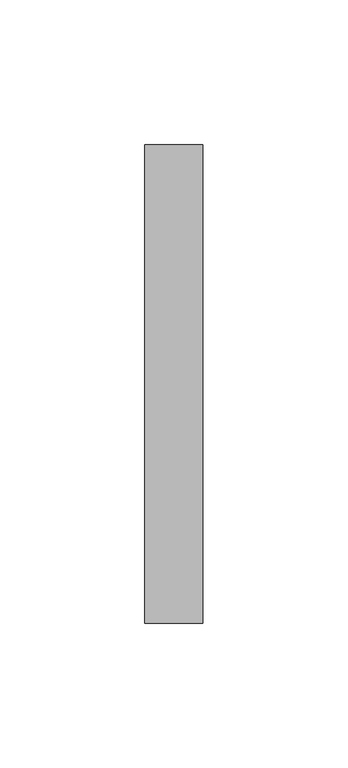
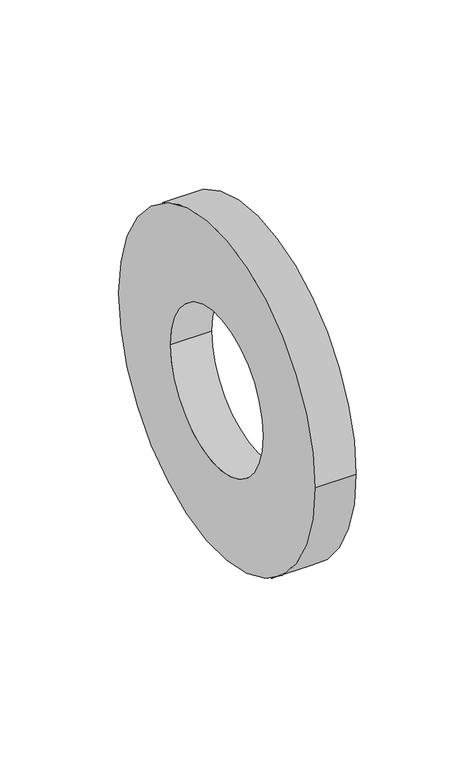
"""IFC4 building model written with IfcOpenShell, lengths in millimetres: pipe fitting geometry, NIRON accesorio brida : Estándar."""

import ifcopenshell
import ifcopenshell.guid

model = None  # the IFC model being written
_history = None  # IfcOwnerHistory: only IFC2X3 demands one
_inside = {}  # id of a spatial element -> (the spatial element, [elements in it])
_under = {}  # id of a project, library or spatial element -> (it, [spatial elements below it])
_declared = {}  # id of a project -> (the project, [libraries it declares])
_typed = {}  # id of a type object -> (the type object, [elements of that type])
_made_of = {}  # id of a material, layer set ... -> (it, [elements and type objects made of it])


def new_model(schema):
    """Start an empty IFC model of exactly this schema.

    Asked for "IFC4X3", IfcOpenShell would pick the latest addendum, in which some entities
    have other attributes; the version numbers below select the first issue.
    IFC2X3 requires an IfcOwnerHistory on every rooted entity: one is made here for all.
    """
    global model, _history
    if schema == "IFC4X3":
        model = ifcopenshell.file(schema_version=(4, 3, 0, 0))
    else:
        model = ifcopenshell.file(schema=schema)
    _inside.clear()
    _under.clear()
    _declared.clear()
    _typed.clear()
    _made_of.clear()
    _history = None
    if model.schema == "IFC2X3":
        org = make("IfcOrganization", Name="unknown")
        user = make(
            "IfcPersonAndOrganization",
            ThePerson=make("IfcPerson", FamilyName="unknown"),
            TheOrganization=org,
        )
        app = make(
            "IfcApplication",
            ApplicationDeveloper=org,
            Version="unknown",
            ApplicationFullName="unknown",
            ApplicationIdentifier="unknown",
        )
        _history = make(
            "IfcOwnerHistory",
            OwningUser=user,
            OwningApplication=app,
            ChangeAction="ADDED",
            CreationDate=0,
        )
    return model


def make(cls, **values):
    """One entity of the class cls with the attributes given. An attribute that is None is left unset."""
    return model.create_entity(
        cls, **{name: value for name, value in values.items() if value is not None}
    )


def rooted(cls, **values):
    """An entity with a GlobalId (a new one), such as an element, a storey or a relation."""
    return make(cls, GlobalId=ifcopenshell.guid.new(), OwnerHistory=_history, **values)


def si_unit(unit_type, name, prefix=None):
    """IfcSIUnit, for example si_unit("LENGTHUNIT", "METRE", prefix="MILLI")."""
    return make("IfcSIUnit", UnitType=unit_type, Prefix=prefix, Name=name)


def assignment(units):
    """IfcUnitAssignment: the units of a project."""
    return None if units is None else make("IfcUnitAssignment", Units=units)


def point(xyz):
    """IfcCartesianPoint."""
    return None if xyz is None else make("IfcCartesianPoint", Coordinates=xyz)


def direction(xyz):
    """IfcDirection."""
    return None if xyz is None else make("IfcDirection", DirectionRatios=xyz)


def frame(location, z_axis=None, x_axis=None):
    """IfcAxis2Placement3D, a coordinate frame: its origin and axes. An axis left out is left unset."""
    return make(
        "IfcAxis2Placement3D",
        Location=point(location),
        Axis=direction(z_axis),
        RefDirection=direction(x_axis),
    )


def frame_2d(location, x_axis=None):
    """IfcAxis2Placement2D, a coordinate frame in the plane: its origin and x axis."""
    return make(
        "IfcAxis2Placement2D", Location=point(location), RefDirection=direction(x_axis)
    )


def origin():
    """The frame at (0, 0, 0) with its axes left unset."""
    return frame((0.0, 0.0, 0.0))


def origin_2d():
    """The frame at (0, 0) in the plane with its x axis left unset."""
    return frame_2d((0.0, 0.0))


def place(relative_to, where):
    """IfcLocalPlacement: puts the frame where relative to a parent placement (None: the world)."""
    return make(
        "IfcLocalPlacement", PlacementRelTo=relative_to, RelativePlacement=where
    )


def context(
    kind, dimensions, precision=None, world=None, true_north=None, identifier=None
):
    """IfcGeometricRepresentationContext, for example the 3D "Model" context."""
    return make(
        "IfcGeometricRepresentationContext",
        ContextIdentifier=identifier,
        ContextType=kind,
        CoordinateSpaceDimension=dimensions,
        Precision=precision,
        WorldCoordinateSystem=world,
        TrueNorth=true_north,
    )


def project(units=None, contexts=None):
    """IfcProject with its units and contexts."""
    return rooted(
        "IfcProject",
        Name="project",
        RepresentationContexts=contexts,
        UnitsInContext=assignment(units),
    )


def spatial(cls, under=None, at=None, **own):
    """A site, building, storey or space (cls), placed at a placement, below another one or the project."""
    s = rooted(cls, ObjectPlacement=at, **own)
    if under is not None:
        _under.setdefault(under.id(), (under, []))[1].append(s)
    return s


def circle_curve(where, radius):
    """IfcCircle in the frame where."""
    return make("IfcCircle", Position=where, Radius=radius)


def trimmed(basis, trim1, trim2, sense, master):
    """IfcTrimmedCurve: the piece of a basis curve between two trims."""
    return make(
        "IfcTrimmedCurve",
        BasisCurve=basis,
        Trim1=trim1,
        Trim2=trim2,
        SenseAgreement=sense,
        MasterRepresentation=master,
    )


def segment(curve, same_sense, transition):
    """IfcCompositeCurveSegment."""
    return make(
        "IfcCompositeCurveSegment",
        Transition=transition,
        SameSense=same_sense,
        ParentCurve=curve,
    )


def composite_curve(segments, self_intersect=None):
    """IfcCompositeCurve: segments joined end to end."""
    return make("IfcCompositeCurve", Segments=segments, SelfIntersect=self_intersect)


def outline(outer, holes=None, kind="AREA"):
    """IfcArbitraryClosedProfileDef: a profile drawn as a closed curve; with holes, ...WithVoids."""
    if holes is None:
        return make("IfcArbitraryClosedProfileDef", ProfileType=kind, OuterCurve=outer)
    return make(
        "IfcArbitraryProfileDefWithVoids",
        ProfileType=kind,
        OuterCurve=outer,
        InnerCurves=holes,
    )


def extrude(swept, where, along, depth):
    """IfcExtrudedAreaSolid: the profile swept, set in the frame where, extruded along a direction by depth."""
    return make(
        "IfcExtrudedAreaSolid",
        SweptArea=swept,
        Position=where,
        ExtrudedDirection=direction(along),
        Depth=depth,
    )


def shape(context_of_items, identifier, shape_type, items):
    """IfcShapeRepresentation: the items that make up one representation, for example the "Body"."""
    return make(
        "IfcShapeRepresentation",
        ContextOfItems=context_of_items,
        RepresentationIdentifier=identifier,
        RepresentationType=shape_type,
        Items=items,
    )


def source(mapping_origin, context_of_items, identifier, shape_type, items):
    """IfcRepresentationMap: a shape defined once, which mapped items show again and again."""
    return make(
        "IfcRepresentationMap",
        MappingOrigin=mapping_origin,
        MappedRepresentation=shape(context_of_items, identifier, shape_type, items),
    )


def transform(
    local_origin,
    x_axis=None,
    y_axis=None,
    z_axis=None,
    scale=None,
    scale2=None,
    scale3=None,
    uniform=True,
):
    """IfcCartesianTransformationOperator3D, or its non-uniform kind. x_axis, y_axis, z_axis: its Axis1, 2, 3."""
    if uniform:
        return make(
            "IfcCartesianTransformationOperator3D",
            Axis1=direction(x_axis),
            Axis2=direction(y_axis),
            LocalOrigin=point(local_origin),
            Scale=scale,
            Axis3=direction(z_axis),
        )
    return make(
        "IfcCartesianTransformationOperator3DnonUniform",
        Axis1=direction(x_axis),
        Axis2=direction(y_axis),
        LocalOrigin=point(local_origin),
        Scale=scale,
        Axis3=direction(z_axis),
        Scale2=scale2,
        Scale3=scale3,
    )


def mapped(mapping_source, mapping_target):
    """IfcMappedItem: shows the shape of a source again, moved by a transform."""
    return make(
        "IfcMappedItem", MappingSource=mapping_source, MappingTarget=mapping_target
    )


def made_of(thing, what):
    """Note that an element or type object is made of a material, layer set ...; save() writes the relation."""
    if what is not None:
        _made_of.setdefault(what.id(), (what, []))[1].append(thing)
    return thing


def element(
    cls,
    number,
    at=None,
    inside=None,
    cuts=None,
    type_object=None,
    material=None,
    context=None,
    identifier="Body",
    shape_type=None,
    held_by="IfcProductDefinitionShape",
    body=None,
    shapes=None,
    **own,
):
    """One element of the class cls, such as IfcWall. Its Tag is "e" and its number.

    at: its placement. inside: the storey or other place that contains it. cuts: it is an
    opening in that element (IfcRelVoidsElement). A single representation is given by context,
    identifier, shape_type and body (its items); several are given by shapes. held_by: the class
    of the entity that holds the representations. save() writes the other relations.
    """
    e = rooted(cls, Tag="e%d" % number, ObjectPlacement=at, **own)
    if body is not None:
        shapes = [shape(context, identifier, shape_type, body)]
    if shapes is not None:
        e.Representation = make(held_by, Representations=shapes)
    if inside is not None:
        _inside.setdefault(inside.id(), (inside, []))[1].append(e)
    if cuts is not None:
        rooted(
            "IfcRelVoidsElement", RelatingBuildingElement=cuts, RelatedOpeningElement=e
        )
    if type_object is not None:
        _typed.setdefault(type_object.id(), (type_object, []))[1].append(e)
    return made_of(e, material)


def aggregate(whole, parts):
    """IfcRelAggregates: a whole, such as a stair, and the parts it consists of."""
    return rooted("IfcRelAggregates", RelatingObject=whole, RelatedObjects=parts)


def save(model, path):
    """Write the relations noted so far, then the file.

    IfcRelAggregates (storeys below a building ...), IfcRelContainedInSpatialStructure (elements
    in a storey), IfcRelDefinesByType, IfcRelAssociatesMaterial and IfcRelDeclares: one each for
    every whole, place, type object, material and project.
    """
    for whole, parts in _under.values():
        aggregate(whole, parts)
    for where, things in _inside.values():
        rooted(
            "IfcRelContainedInSpatialStructure",
            RelatedElements=things,
            RelatingStructure=where,
        )
    for kind, things in _typed.values():
        rooted("IfcRelDefinesByType", RelatedObjects=things, RelatingType=kind)
    for what, things in _made_of.values():
        rooted("IfcRelAssociatesMaterial", RelatedObjects=things, RelatingMaterial=what)
    for by, libraries in _declared.values():
        rooted("IfcRelDeclares", RelatingContext=by, RelatedDefinitions=libraries)
    model.write(path)


def pipe_fitting_e073b52f(model_context):
    return source(origin(), model_context, "Body", "SweptSolid", [
        extrude(outline(composite_curve([segment(trimmed(circle_curve(origin_2d(), 82.5), [point((82.5, 0.0))], [point((-82.5, 0.0))], False, "CARTESIAN"), True, "CONTINUOUS"), segment(trimmed(circle_curve(origin_2d(), 82.5), [point((-82.5, 0.0))], [point((82.5, 0.0))], False, "CARTESIAN"), True, "CONTINUOUS")], self_intersect=False), holes=[composite_curve([segment(trimmed(circle_curve(origin_2d(), 39.0), [point((39.0, 0.0))], [point((-39.0, 0.0))], True, "CARTESIAN"), True, "CONTINUOUS"), segment(trimmed(circle_curve(origin_2d(), 39.0), [point((-39.0, 0.0))], [point((39.0, 0.0))], True, "CARTESIAN"), True, "CONTINUOUS")], self_intersect=False)]), frame((2.4830127, 0.0, 0.0), z_axis=(1.0, 0.0, 0.0), x_axis=(0.0, 1.0, 0.0)), (0.0, 0.0, 1.0), 20.0),
    ])


if __name__ == "__main__":
    model = new_model("IFC4")
    model_context = context("Model", 3, world=origin())
    ifc_project = project(units=[si_unit("LENGTHUNIT", "METRE", prefix="MILLI")], contexts=[model_context])
    site = spatial("IfcSite", under=ifc_project)
    building = spatial("IfcBuilding", under=site)
    placement = place(None, origin())
    pipe_fitting_shape = pipe_fitting_e073b52f(model_context)
    element("IfcPipeFitting", 1, ObjectType="NIRON accesorio brida : Estándar", at=placement, inside=building, context=model_context, shape_type="MappedRepresentation", body=[
        mapped(pipe_fitting_shape, transform((0.0, 0.0, 0.0), x_axis=(1.0, 0.0, 0.0), y_axis=(0.0, 1.0, 0.0), z_axis=(0.0, 0.0, 1.0))),
    ])
    save(model, "model.ifc")
